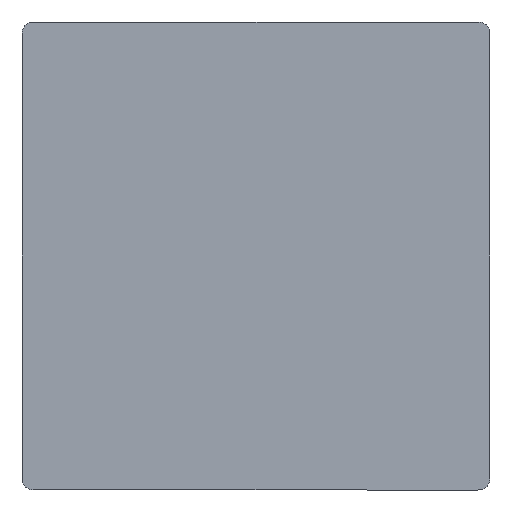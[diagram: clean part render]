
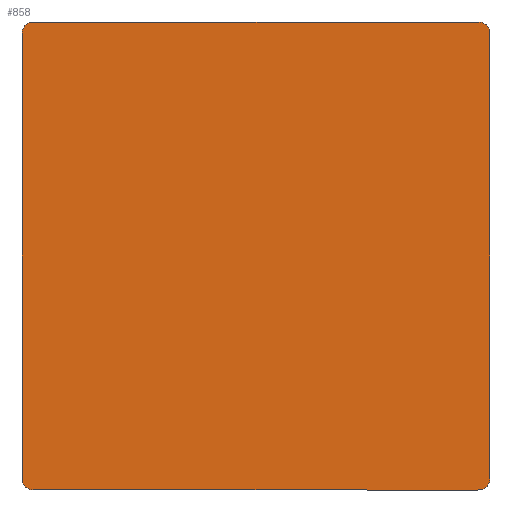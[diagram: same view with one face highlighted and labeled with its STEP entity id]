
A CAD part, front view. The second image highlights one B-rep face of the part: STEP entity #858.
In plain terms, the highlighted planar face has unit normal (0, -1, 0).
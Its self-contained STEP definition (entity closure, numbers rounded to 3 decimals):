
#42 = CARTESIAN_POINT ( 'NONE',  ( 9.1, 0., 8.602 ) ) ;
#120 = CARTESIAN_POINT ( 'NONE',  ( 8.602, 0., -9.1 ) ) ;
#148 = CARTESIAN_POINT ( 'NONE',  ( -9.1, 0., -9.1 ) ) ;
#158 = CARTESIAN_POINT ( 'NONE',  ( -9.1, 0., -8.602 ) ) ;
#162 = B_SPLINE_CURVE_WITH_KNOTS ( 'NONE', 3,
 ( #811, #1273, #1924, #335 ),
 .UNSPECIFIED., .F., .F.,
 ( 4, 4 ),
 ( 0., 1. ),
 .UNSPECIFIED. ) ;
#177 = ORIENTED_EDGE ( 'NONE', *, *, #644, .T. ) ;
#207 = EDGE_LOOP ( 'NONE', ( #911, #379, #1585, #177, #2554, #2784, #454, #2083 ) ) ;
#265 = CARTESIAN_POINT ( 'NONE',  ( -8.934, 0., 9.1 ) ) ;
#274 = CARTESIAN_POINT ( 'NONE',  ( 8.934, 0., 9.1 ) ) ;
#308 = EDGE_CURVE ( 'NONE', #2984, #1131, #711, .T. ) ;
#335 = CARTESIAN_POINT ( 'NONE',  ( -8.602, 0., -9.1 ) ) ;
#379 = ORIENTED_EDGE ( 'NONE', *, *, #2539, .T. ) ;
#382 = VECTOR ( 'NONE', #949, 1000. ) ;
#414 = CARTESIAN_POINT ( 'NONE',  ( 0., 0., 0. ) ) ;
#429 = EDGE_CURVE ( 'NONE', #726, #2911, #953, .T. ) ;
#454 = ORIENTED_EDGE ( 'NONE', *, *, #429, .F. ) ;
#519 = EDGE_CURVE ( 'NONE', #2095, #2911, #2164, .T. ) ;
#644 = EDGE_CURVE ( 'NONE', #1169, #2511, #162, .T. ) ;
#666 = DIRECTION ( 'NONE',  ( 0., -1., 0. ) ) ;
#669 = VECTOR ( 'NONE', #744, 1000. ) ;
#701 = B_SPLINE_CURVE_WITH_KNOTS ( 'NONE', 3,
 ( #42, #767, #274, #2299 ),
 .UNSPECIFIED., .F., .F.,
 ( 4, 4 ),
 ( 0., 1. ),
 .UNSPECIFIED. ) ;
#711 = LINE ( 'NONE', #2290, #2337 ) ;
#726 = VERTEX_POINT ( 'NONE', #1971 ) ;
#744 = DIRECTION ( 'NONE',  ( 0., 0., -1. ) ) ;
#767 = CARTESIAN_POINT ( 'NONE',  ( 9.1, 0., 8.934 ) ) ;
#811 = CARTESIAN_POINT ( 'NONE',  ( -9.1, 0., -8.602 ) ) ;
#858 = ADVANCED_FACE ( 'NONE', ( #1088 ), #2472, .T. ) ;
#911 = ORIENTED_EDGE ( 'NONE', *, *, #308, .F. ) ;
#915 = DIRECTION ( 'NONE',  ( 0., 0., 1. ) ) ;
#949 = DIRECTION ( 'NONE',  ( -1., 0., 0. ) ) ;
#953 = LINE ( 'NONE', #1857, #669 ) ;
#961 = AXIS2_PLACEMENT_3D ( 'NONE', #414, #666, #1815 ) ;
#1088 = FACE_OUTER_BOUND ( 'NONE', #207, .T. ) ;
#1131 = VERTEX_POINT ( 'NONE', #1795 ) ;
#1142 = LINE ( 'NONE', #2067, #382 ) ;
#1169 = VERTEX_POINT ( 'NONE', #158 ) ;
#1173 = CARTESIAN_POINT ( 'NONE',  ( -9.1, 0., 8.602 ) ) ;
#1180 = CARTESIAN_POINT ( 'NONE',  ( -9.1, 0., 8.602 ) ) ;
#1217 = CARTESIAN_POINT ( 'NONE',  ( -8.602, 0., 9.1 ) ) ;
#1273 = CARTESIAN_POINT ( 'NONE',  ( -9.1, 0., -8.934 ) ) ;
#1313 = EDGE_CURVE ( 'NONE', #1169, #2244, #2047, .T. ) ;
#1420 = CARTESIAN_POINT ( 'NONE',  ( 9.1, 0., -8.602 ) ) ;
#1585 = ORIENTED_EDGE ( 'NONE', *, *, #1313, .F. ) ;
#1642 = CARTESIAN_POINT ( 'NONE',  ( -9.1, 0., 8.934 ) ) ;
#1644 = CARTESIAN_POINT ( 'NONE',  ( 9.1, 0., -8.934 ) ) ;
#1702 = EDGE_CURVE ( 'NONE', #726, #1131, #701, .T. ) ;
#1795 = CARTESIAN_POINT ( 'NONE',  ( 8.602, 0., 9.1 ) ) ;
#1815 = DIRECTION ( 'NONE',  ( 0., 0., -1. ) ) ;
#1842 = DIRECTION ( 'NONE',  ( 1., 0., 0. ) ) ;
#1854 = CARTESIAN_POINT ( 'NONE',  ( 9.1, 0., -8.602 ) ) ;
#1857 = CARTESIAN_POINT ( 'NONE',  ( 9.1, 0., -9.1 ) ) ;
#1912 = B_SPLINE_CURVE_WITH_KNOTS ( 'NONE', 3,
 ( #2317, #265, #1642, #1180 ),
 .UNSPECIFIED., .F., .F.,
 ( 4, 4 ),
 ( 0., 1. ),
 .UNSPECIFIED. ) ;
#1924 = CARTESIAN_POINT ( 'NONE',  ( -8.934, 0., -9.1 ) ) ;
#1971 = CARTESIAN_POINT ( 'NONE',  ( 9.1, 0., 8.602 ) ) ;
#2047 = LINE ( 'NONE', #148, #2731 ) ;
#2067 = CARTESIAN_POINT ( 'NONE',  ( 9.1, 0., -9.1 ) ) ;
#2083 = ORIENTED_EDGE ( 'NONE', *, *, #1702, .T. ) ;
#2095 = VERTEX_POINT ( 'NONE', #120 ) ;
#2164 = B_SPLINE_CURVE_WITH_KNOTS ( 'NONE', 3,
 ( #2772, #2556, #1644, #1420 ),
 .UNSPECIFIED., .F., .F.,
 ( 4, 4 ),
 ( 0., 1. ),
 .UNSPECIFIED. ) ;
#2244 = VERTEX_POINT ( 'NONE', #1173 ) ;
#2289 = CARTESIAN_POINT ( 'NONE',  ( -8.602, 0., -9.1 ) ) ;
#2290 = CARTESIAN_POINT ( 'NONE',  ( 9.1, 0., 9.1 ) ) ;
#2299 = CARTESIAN_POINT ( 'NONE',  ( 8.602, 0., 9.1 ) ) ;
#2317 = CARTESIAN_POINT ( 'NONE',  ( -8.602, 0., 9.1 ) ) ;
#2337 = VECTOR ( 'NONE', #1842, 1000. ) ;
#2472 = PLANE ( 'NONE',  #961 ) ;
#2511 = VERTEX_POINT ( 'NONE', #2289 ) ;
#2539 = EDGE_CURVE ( 'NONE', #2984, #2244, #1912, .T. ) ;
#2554 = ORIENTED_EDGE ( 'NONE', *, *, #2875, .F. ) ;
#2556 = CARTESIAN_POINT ( 'NONE',  ( 8.934, 0., -9.1 ) ) ;
#2731 = VECTOR ( 'NONE', #915, 1000. ) ;
#2772 = CARTESIAN_POINT ( 'NONE',  ( 8.602, 0., -9.1 ) ) ;
#2784 = ORIENTED_EDGE ( 'NONE', *, *, #519, .T. ) ;
#2875 = EDGE_CURVE ( 'NONE', #2095, #2511, #1142, .T. ) ;
#2911 = VERTEX_POINT ( 'NONE', #1854 ) ;
#2984 = VERTEX_POINT ( 'NONE', #1217 ) ;
